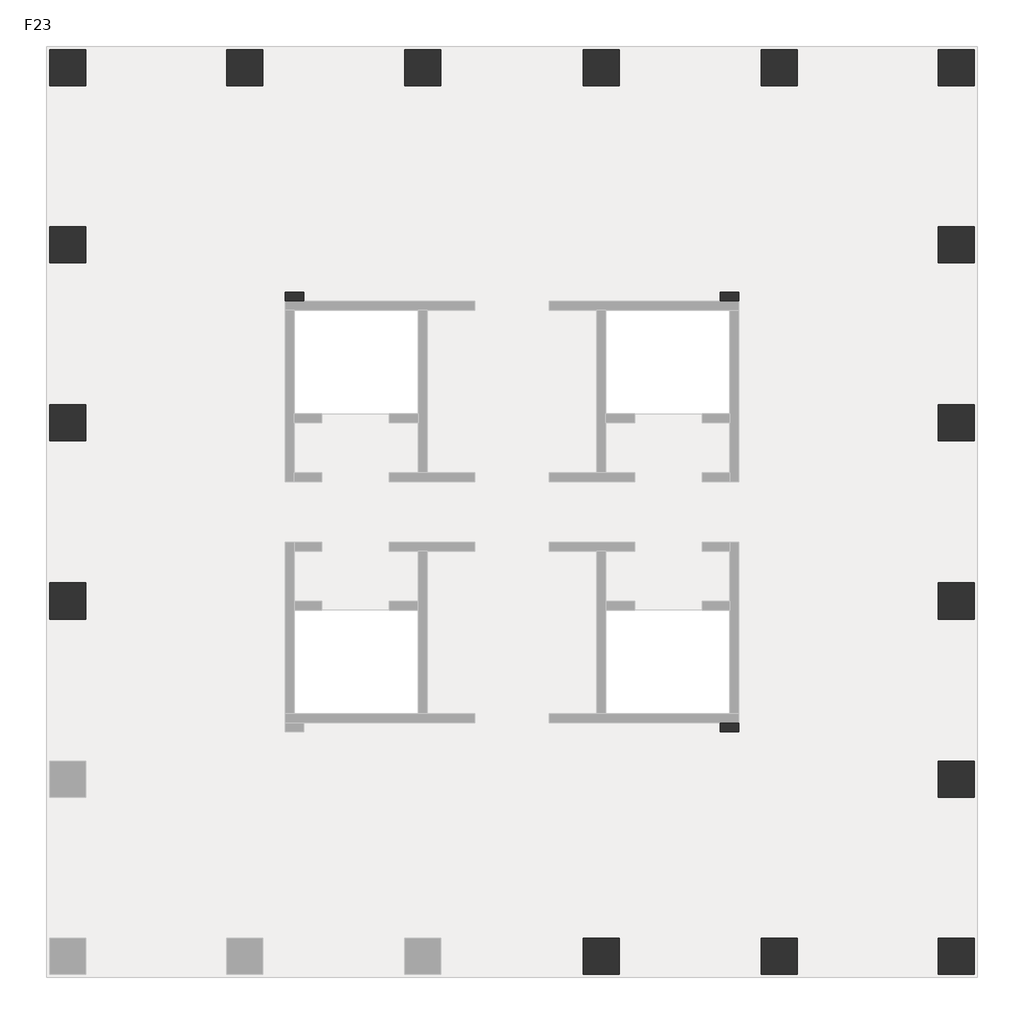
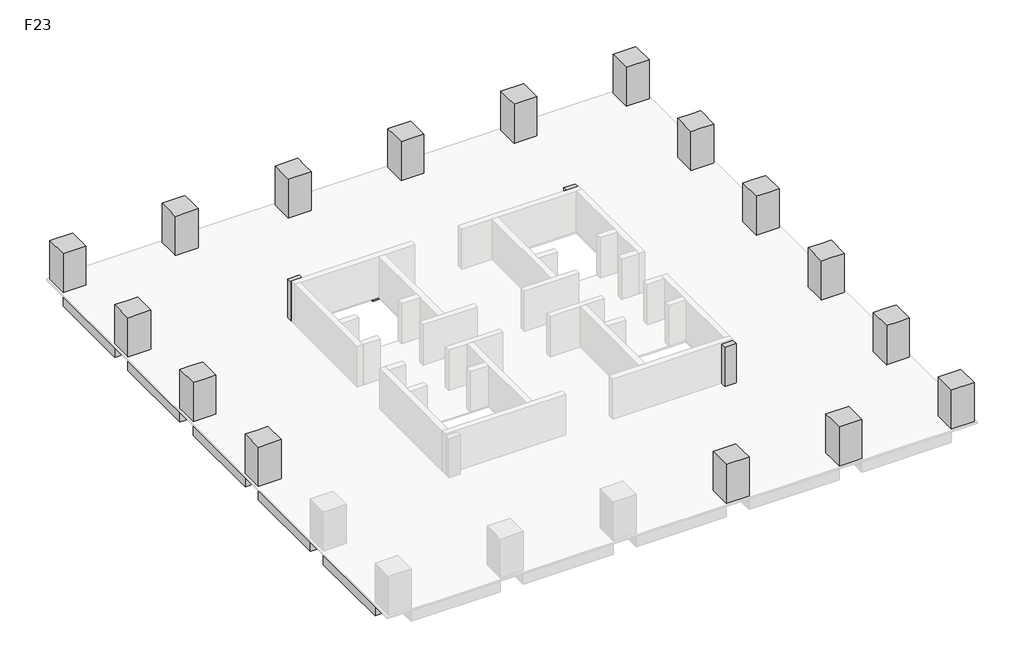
# One storey, part 2 of 2: 19 columns, 17 beams.
"""IFC4 building model written with IfcOpenShell, lengths in millimetres."""

from ifc_helpers import new_model, si_unit, frame, origin, place, context, project, spatial, polyline, outline, extrude, faceted_brep, element, save

model = new_model("IFC4")

# Units and contexts
model_context = context("Model", 3, world=origin())
ifc_project = project(units=[si_unit("LENGTHUNIT", "METRE", prefix="MILLI")], contexts=[model_context])

# Site, building, storey
site = spatial("IfcSite", under=ifc_project)
building = spatial("IfcBuilding", under=site)
storey = spatial("IfcBuildingStorey", under=building, Name="F23", Elevation=87000.0)

# Beams
placement = place(None, origin())
element("IfcBeam", 1, ObjectType="混凝土 - 矩形梁 : KL(5)-800x1000", at=placement, inside=storey, context=model_context, shape_type="SweptSolid", body=[
    extrude(outline(polyline([(25327.3257831, 27051.0498658), (25327.3257831, 26251.0498658), (19077.3257831, 26251.0498658), (19077.3257831, 27051.0498658), (25327.3257831, 27051.0498658)])), frame((0.0, 0.0, 86000.0), z_axis=(0.0, 0.0, 1.0), x_axis=(1.0, 0.0, 0.0)), (0.0, 0.0, 1.0), 900.0),
    extrude(outline(polyline([(-12472.6742169, 26251.0498658), (-12472.6742169, 27051.0498658), (-6222.6742169, 27051.0498658), (-6222.6742169, 26251.0498658), (-12472.6742169, 26251.0498658)])), frame((0.0, 0.0, 86000.0), z_axis=(0.0, 0.0, 1.0), x_axis=(1.0, 0.0, 0.0)), (0.0, 0.0, 1.0), 900.0),
    extrude(outline(polyline([(-4622.6742169, 26251.0498658), (-4622.6742169, 27051.0498658), (1677.3257831, 27051.0498658), (1677.3257831, 26251.0498658), (-4622.6742169, 26251.0498658)])), frame((0.0, 0.0, 86000.0), z_axis=(0.0, 0.0, 1.0), x_axis=(1.0, 0.0, 0.0)), (0.0, 0.0, 1.0), 900.0),
    extrude(outline(polyline([(3277.3257831, 26251.0498658), (3277.3257831, 27051.0498658), (9577.3257831, 27051.0498658), (9577.3257831, 26251.0498658), (3277.3257831, 26251.0498658)])), frame((0.0, 0.0, 86000.0), z_axis=(0.0, 0.0, 1.0), x_axis=(1.0, 0.0, 0.0)), (0.0, 0.0, 1.0), 900.0),
    extrude(outline(polyline([(11177.3257831, 26251.0498658), (11177.3257831, 27051.0498658), (17477.3257831, 27051.0498658), (17477.3257831, 26251.0498658), (11177.3257831, 26251.0498658)])), frame((0.0, 0.0, 86000.0), z_axis=(0.0, 0.0, 1.0), x_axis=(1.0, 0.0, 0.0)), (0.0, 0.0, 1.0), 900.0),
])
element("IfcBeam", 2, ObjectType="混凝土 - 矩形梁 : KL(5)-800x1000", at=placement, inside=storey, context=model_context, shape_type="SweptSolid", body=[
    extrude(outline(polyline([(26927.3257831, -12348.9501342), (26127.3257831, -12348.9501342), (26127.3257831, -6098.9501342), (26927.3257831, -6098.9501342), (26927.3257831, -12348.9501342)])), frame((0.0, 0.0, 86000.0), z_axis=(0.0, 0.0, 1.0), x_axis=(1.0, 0.0, 0.0)), (0.0, 0.0, 1.0), 900.0),
    extrude(outline(polyline([(26127.3257831, 25451.0498658), (26927.3257831, 25451.0498658), (26927.3257831, 19201.0498658), (26127.3257831, 19201.0498658), (26127.3257831, 25451.0498658)])), frame((0.0, 0.0, 86000.0), z_axis=(0.0, 0.0, 1.0), x_axis=(1.0, 0.0, 0.0)), (0.0, 0.0, 1.0), 900.0),
    extrude(outline(polyline([(26127.3257831, 17601.0498658), (26927.3257831, 17601.0498658), (26927.3257831, 11301.0498658), (26127.3257831, 11301.0498658), (26127.3257831, 17601.0498658)])), frame((0.0, 0.0, 86000.0), z_axis=(0.0, 0.0, 1.0), x_axis=(1.0, 0.0, 0.0)), (0.0, 0.0, 1.0), 900.0),
    extrude(outline(polyline([(26127.3257831, 9701.0498658), (26927.3257831, 9701.0498658), (26927.3257831, 3401.0498658), (26127.3257831, 3401.0498658), (26127.3257831, 9701.0498658)])), frame((0.0, 0.0, 86000.0), z_axis=(0.0, 0.0, 1.0), x_axis=(1.0, 0.0, 0.0)), (0.0, 0.0, 1.0), 900.0),
    extrude(outline(polyline([(26127.3257831, 1801.0498658), (26927.3257831, 1801.0498658), (26927.3257831, -4498.9501342), (26127.3257831, -4498.9501342), (26127.3257831, 1801.0498658)])), frame((0.0, 0.0, 86000.0), z_axis=(0.0, 0.0, 1.0), x_axis=(1.0, 0.0, 0.0)), (0.0, 0.0, 1.0), 900.0),
])
element("IfcBeam", 3, ObjectType="混凝土 - 矩形梁 : KL(5)-800x1000", at=placement, inside=storey, context=model_context, shape_type="SweptSolid", body=[
    extrude(outline(polyline([(-14072.6742169, 25451.0498658), (-13272.6742169, 25451.0498658), (-13272.6742169, 19201.0498658), (-14072.6742169, 19201.0498658), (-14072.6742169, 25451.0498658)])), frame((0.0, 0.0, 86000.0), z_axis=(0.0, 0.0, 1.0), x_axis=(1.0, 0.0, 0.0)), (0.0, 0.0, 1.0), 900.0),
    extrude(outline(polyline([(-13272.6742169, -12348.9501342), (-14072.6742169, -12348.9501342), (-14072.6742169, -6098.9501342), (-13272.6742169, -6098.9501342), (-13272.6742169, -12348.9501342)])), frame((0.0, 0.0, 86000.0), z_axis=(0.0, 0.0, 1.0), x_axis=(1.0, 0.0, 0.0)), (0.0, 0.0, 1.0), 900.0),
    extrude(outline(polyline([(-14072.6742169, 17601.0498658), (-13272.6742169, 17601.0498658), (-13272.6742169, 11301.0498658), (-14072.6742169, 11301.0498658), (-14072.6742169, 17601.0498658)])), frame((0.0, 0.0, 86000.0), z_axis=(0.0, 0.0, 1.0), x_axis=(1.0, 0.0, 0.0)), (0.0, 0.0, 1.0), 900.0),
    extrude(outline(polyline([(-14072.6742169, 9701.0498658), (-13272.6742169, 9701.0498658), (-13272.6742169, 3401.0498658), (-14072.6742169, 3401.0498658), (-14072.6742169, 9701.0498658)])), frame((0.0, 0.0, 86000.0), z_axis=(0.0, 0.0, 1.0), x_axis=(1.0, 0.0, 0.0)), (0.0, 0.0, 1.0), 900.0),
    extrude(outline(polyline([(-14072.6742169, 1801.0498658), (-13272.6742169, 1801.0498658), (-13272.6742169, -4498.9501342), (-14072.6742169, -4498.9501342), (-14072.6742169, 1801.0498658)])), frame((0.0, 0.0, 86000.0), z_axis=(0.0, 0.0, 1.0), x_axis=(1.0, 0.0, 0.0)), (0.0, 0.0, 1.0), 900.0),
])
element("IfcBeam", 4, ObjectType="混凝土 - 矩形梁 : L1-800x500", at=placement, inside=storey, context=model_context, shape_type="SweptSolid", body=[
    extrude(outline(polyline([(-12472.6742169, 2201.0498658), (-12472.6742169, 3001.0498658), (-3622.6742169, 3001.0498658), (-3622.6742169, 2201.0498658), (-12472.6742169, 2201.0498658)])), frame((0.0, 0.0, 86500.0), z_axis=(0.0, 0.0, 1.0), x_axis=(1.0, 0.0, 0.0)), (0.0, 0.0, 1.0), 400.0),
])
element("IfcBeam", 5, ObjectType="混凝土 - 矩形梁 : L1-800x500", at=placement, inside=storey, context=model_context, shape_type="SweptSolid", body=[
    extrude(outline(polyline([(-12472.6742169, 10101.0498658), (-12472.6742169, 10901.0498658), (-3622.6742169, 10901.0498658), (-3622.6742169, 10101.0498658), (-12472.6742169, 10101.0498658)])), frame((0.0, 0.0, 86500.0), z_axis=(0.0, 0.0, 1.0), x_axis=(1.0, 0.0, 0.0)), (0.0, 0.0, 1.0), 400.0),
])
element("IfcBeam", 6, ObjectType="混凝土 - 矩形梁 : L1-800x500", at=placement, inside=storey, context=model_context, shape_type="Brep", body=[
    faceted_brep([(-12472.6742169, 17789.85471, 86500.0), (-3622.6742169, 15588.3621727, 86500.0), (-3622.6742169, 15588.3621727, 86900.0), (-12472.6742169, 17789.85471, 86900.0), (-3173.6696907, 16301.0498658, 86500.0), (-3622.6742169, 16301.0498658, 86500.0), (-3622.6742169, 15901.0498658, 86500.0), (-12472.6742169, 18614.2350714, 86500.0), (-3746.9473979, 16443.6562607, 86500.0), (-12472.6742169, 18614.2350714, 86900.0), (-3746.9473979, 16443.6562607, 86900.0), (-3173.6696907, 16301.0498658, 86900.0), (-3622.6742169, 16301.0498658, 86900.0)], [[[0, 1, 2, 3]], [[4, 5, 6, 1, 0, 7, 8]], [[4, 8, 7, 9, 10, 11]], [[6, 5, 12, 2, 1]], [[5, 4, 11, 12]], [[7, 0, 3, 9]], [[3, 2, 12, 11, 10, 9]]]),
])
element("IfcBeam", 7, ObjectType="混凝土 - 矩形梁 : L1-800x500", at=placement, inside=storey, context=model_context, shape_type="SweptSolid", body=[
    extrude(outline(polyline([(-3173.6696907, 16301.0498658), (-3746.9473979, 16443.6562607), (-5661.5624638, 25451.0498658), (-4843.6893517, 25451.0498658), (-2898.7618154, 16301.0498658), (-3173.6696907, 16301.0498658)])), frame((0.0, 0.0, 86500.0), z_axis=(0.0, 0.0, 1.0), x_axis=(1.0, 0.0, 0.0)), (0.0, 0.0, 1.0), 400.0),
])
element("IfcBeam", 8, ObjectType="混凝土 - 矩形梁 : L1-800x500", at=placement, inside=storey, context=model_context, shape_type="SweptSolid", body=[
    extrude(outline(polyline([(2077.3257831, 25451.0498658), (2877.3257831, 25451.0498658), (2877.3257831, 15901.0498658), (2077.3257831, 15901.0498658), (2077.3257831, 25451.0498658)])), frame((0.0, 0.0, 86500.0), z_axis=(0.0, 0.0, 1.0), x_axis=(1.0, 0.0, 0.0)), (0.0, 0.0, 1.0), 400.0),
])
element("IfcBeam", 9, ObjectType="混凝土 - 矩形梁 : L1-800x500", at=placement, inside=storey, context=model_context, shape_type="SweptSolid", body=[
    extrude(outline(polyline([(9977.3257831, 25451.0498658), (10777.3257831, 25451.0498658), (10777.3257831, 15901.0498658), (9977.3257831, 15901.0498658), (9977.3257831, 25451.0498658)])), frame((0.0, 0.0, 86500.0), z_axis=(0.0, 0.0, 1.0), x_axis=(1.0, 0.0, 0.0)), (0.0, 0.0, 1.0), 400.0),
])
element("IfcBeam", 10, ObjectType="混凝土 - 矩形梁 : L1-800x500", at=placement, inside=storey, context=model_context, shape_type="SweptSolid", body=[
    extrude(outline(polyline([(2877.3257831, -12348.9501342), (2077.3257831, -12348.9501342), (2077.3257831, -2798.9501342), (2877.3257831, -2798.9501342), (2877.3257831, -12348.9501342)])), frame((0.0, 0.0, 86500.0), z_axis=(0.0, 0.0, 1.0), x_axis=(1.0, 0.0, 0.0)), (0.0, 0.0, 1.0), 400.0),
])
element("IfcBeam", 11, ObjectType="混凝土 - 矩形梁 : L1-800x500", at=placement, inside=storey, context=model_context, shape_type="SweptSolid", body=[
    extrude(outline(polyline([(10777.3257831, -12348.9501342), (9977.3257831, -12348.9501342), (9977.3257831, -2798.9501342), (10777.3257831, -2798.9501342), (10777.3257831, -12348.9501342)])), frame((0.0, 0.0, 86500.0), z_axis=(0.0, 0.0, 1.0), x_axis=(1.0, 0.0, 0.0)), (0.0, 0.0, 1.0), 400.0),
])
element("IfcBeam", 12, ObjectType="混凝土 - 矩形梁 : L1-800x500", at=placement, inside=storey, context=model_context, shape_type="Brep", body=[
    faceted_brep([(25327.3257831, -4687.7549784, 86500.0), (16477.3257831, -2486.2624411, 86500.0), (16477.3257831, -2486.2624411, 86900.0), (25327.3257831, -4687.7549784, 86900.0), (16028.3212569, -3198.9501342, 86500.0), (16477.3257831, -3198.9501342, 86500.0), (16477.3257831, -2798.9501342, 86500.0), (25327.3257831, -5512.1353397, 86500.0), (16601.5989641, -3341.556529, 86500.0), (25327.3257831, -5512.1353397, 86900.0), (16601.5989641, -3341.556529, 86900.0), (16028.3212569, -3198.9501342, 86900.0), (16477.3257831, -3198.9501342, 86900.0)], [[[0, 1, 2, 3]], [[4, 5, 6, 1, 0, 7, 8]], [[4, 8, 7, 9, 10, 11]], [[6, 5, 12, 2, 1]], [[5, 4, 11, 12]], [[7, 0, 3, 9]], [[3, 2, 12, 11, 10, 9]]]),
])
element("IfcBeam", 13, ObjectType="混凝土 - 矩形梁 : L1-800x500", at=placement, inside=storey, context=model_context, shape_type="SweptSolid", body=[
    extrude(outline(polyline([(16028.3212569, -3198.9501342), (16601.5989641, -3341.556529), (18516.21403, -12348.9501342), (17698.3409179, -12348.9501342), (15753.4133817, -3198.9501342), (16028.3212569, -3198.9501342)])), frame((0.0, 0.0, 86500.0), z_axis=(0.0, 0.0, 1.0), x_axis=(1.0, 0.0, 0.0)), (0.0, 0.0, 1.0), 400.0),
])
element("IfcBeam", 14, ObjectType="混凝土 - 矩形梁 : L1-800x500", at=placement, inside=storey, context=model_context, shape_type="SweptSolid", body=[
    extrude(outline(polyline([(25327.3257831, 3001.0498658), (25327.3257831, 2201.0498658), (16477.3257831, 2201.0498658), (16477.3257831, 3001.0498658), (25327.3257831, 3001.0498658)])), frame((0.0, 0.0, 86500.0), z_axis=(0.0, 0.0, 1.0), x_axis=(1.0, 0.0, 0.0)), (0.0, 0.0, 1.0), 400.0),
])
element("IfcBeam", 15, ObjectType="混凝土 - 矩形梁 : L1-800x500", at=placement, inside=storey, context=model_context, shape_type="SweptSolid", body=[
    extrude(outline(polyline([(25327.3257831, 10901.0498658), (25327.3257831, 10101.0498658), (16477.3257831, 10101.0498658), (16477.3257831, 10901.0498658), (25327.3257831, 10901.0498658)])), frame((0.0, 0.0, 86500.0), z_axis=(0.0, 0.0, 1.0), x_axis=(1.0, 0.0, 0.0)), (0.0, 0.0, 1.0), 400.0),
])
element("IfcBeam", 16, ObjectType="混凝土 - 矩形梁 : L1-800x500", at=placement, inside=storey, context=model_context, shape_type="Brep", body=[
    faceted_brep([(25327.3257831, 18610.6867312, 86500.0), (16590.8993897, 16393.3196262, 86500.0), (16227.3565337, 16301.0498658, 86500.0), (16227.3565337, 16301.0498658, 86900.0), (16590.8993897, 16393.3196262, 86900.0), (25327.3257831, 18610.6867312, 86900.0), (16477.3257831, 16301.0498658, 86500.0), (25327.3257831, 17785.3216299, 86500.0), (16477.3257831, 15539.1287365, 86500.0), (16477.3257831, 15901.0498658, 86500.0), (25327.3257831, 17785.3216299, 86900.0), (16477.3257831, 15539.1287365, 86900.0), (16477.3257831, 16301.0498658, 86900.0)], [[[0, 1, 2, 3, 4, 5]], [[6, 2, 1, 0, 7, 8, 9]], [[8, 7, 10, 11]], [[9, 8, 11, 12, 6]], [[2, 6, 12, 3]], [[7, 0, 5, 10]], [[5, 4, 3, 12, 11, 10]]]),
])
element("IfcBeam", 17, ObjectType="混凝土 - 矩形梁 : L1-800x500", at=placement, inside=storey, context=model_context, shape_type="SweptSolid", body=[
    extrude(outline(polyline([(16590.8993897, 16393.3196262), (16227.3565337, 16301.0498658), (15753.4133817, 16301.0498658), (17698.3409179, 25451.0498658), (18516.21403, 25451.0498658), (16590.8993897, 16393.3196262)])), frame((0.0, 0.0, 86500.0), z_axis=(0.0, 0.0, 1.0), x_axis=(1.0, 0.0, 0.0)), (0.0, 0.0, 1.0), 400.0),
])

# Columns
element("IfcColumn", 18, ObjectType="混凝土 - 矩形 - 柱 : Z1-1600x1600", at=placement, inside=storey, context=model_context, shape_type="SweptSolid", body=[
    extrude(outline(polyline([(-12472.6742169, 27051.0498658), (-12472.6742169, 25451.0498658), (-14072.6742169, 25451.0498658), (-14072.6742169, 27051.0498658), (-12472.6742169, 27051.0498658)])), frame((0.0, 0.0, 87000.0), z_axis=(0.0, 0.0, 1.0), x_axis=(1.0, 0.0, 0.0)), (0.0, 0.0, 1.0), 2900.0),
])
element("IfcColumn", 19, ObjectType="混凝土 - 矩形 - 柱 : Z1-1600x1600", at=placement, inside=storey, context=model_context, shape_type="Brep", body=[
    faceted_brep([(-4622.6742169, 27051.0498658, 87000.0), (-4622.6742169, 25451.0498658, 87000.0), (-6222.6742169, 25451.0498658, 87000.0), (-6222.6742169, 27051.0498658, 87000.0), (-4622.6742169, 27051.0498658, 89000.0), (-4622.6742169, 27051.0498658, 89900.0), (-4622.6742169, 26251.0498658, 89900.0), (-4622.6742169, 25451.0498658, 89900.0), (-6222.6742169, 25451.0498658, 89900.0), (-6222.6742169, 26251.0498658, 89900.0), (-6222.6742169, 27051.0498658, 89900.0), (-6222.6742169, 27051.0498658, 89000.0)], [[[0, 1, 2, 3]], [[1, 0, 4, 5, 6, 7]], [[2, 1, 7, 8]], [[3, 2, 8, 9, 10, 11]], [[0, 3, 11, 10, 5, 4]], [[7, 6, 5, 10, 9, 8]]]),
])
element("IfcColumn", 20, ObjectType="混凝土 - 矩形 - 柱 : Z1-1600x1600", at=placement, inside=storey, context=model_context, shape_type="Brep", body=[
    faceted_brep([(-12472.6742169, 19201.0498658, 87000.0), (-12472.6742169, 17601.0498658, 87000.0), (-14072.6742169, 17601.0498658, 87000.0), (-14072.6742169, 19201.0498658, 87000.0), (-12472.6742169, 19201.0498658, 89900.0), (-12472.6742169, 17601.0498658, 89900.0), (-13272.6742169, 17601.0498658, 89900.0), (-14072.6742169, 17601.0498658, 89900.0), (-14072.6742169, 17601.0498658, 89000.0), (-14072.6742169, 19201.0498658, 89900.0), (-14072.6742169, 19201.0498658, 89000.0), (-13272.6742169, 19201.0498658, 89900.0)], [[[0, 1, 2, 3]], [[1, 0, 4, 5]], [[2, 1, 5, 6, 7, 8]], [[3, 2, 8, 7, 9, 10]], [[0, 3, 10, 9, 11, 4]], [[5, 4, 11, 9, 7, 6]]]),
])
element("IfcColumn", 21, ObjectType="混凝土 - 矩形 - 柱 : Z1-1600x1600", at=placement, inside=storey, context=model_context, shape_type="Brep", body=[
    faceted_brep([(-12472.6742169, 11301.0498658, 87000.0), (-12472.6742169, 9701.0498658, 87000.0), (-14072.6742169, 9701.0498658, 87000.0), (-14072.6742169, 11301.0498658, 87000.0), (-12472.6742169, 11301.0498658, 89900.0), (-12472.6742169, 9701.0498658, 89900.0), (-13272.6742169, 9701.0498658, 89900.0), (-14072.6742169, 9701.0498658, 89900.0), (-14072.6742169, 9701.0498658, 89000.0), (-14072.6742169, 11301.0498658, 89900.0), (-14072.6742169, 11301.0498658, 89000.0), (-13272.6742169, 11301.0498658, 89900.0)], [[[0, 1, 2, 3]], [[1, 0, 4, 5]], [[2, 1, 5, 6, 7, 8]], [[3, 2, 8, 7, 9, 10]], [[0, 3, 10, 9, 11, 4]], [[5, 4, 11, 9, 7, 6]]]),
])
element("IfcColumn", 22, ObjectType="混凝土 - 矩形 - 柱 : Z1-1600x1600", at=placement, inside=storey, context=model_context, shape_type="Brep", body=[
    faceted_brep([(-12472.6742169, 3401.0498658, 87000.0), (-12472.6742169, 1801.0498658, 87000.0), (-14072.6742169, 1801.0498658, 87000.0), (-14072.6742169, 3401.0498658, 87000.0), (-12472.6742169, 3401.0498658, 89900.0), (-12472.6742169, 1801.0498658, 89900.0), (-13272.6742169, 1801.0498658, 89900.0), (-14072.6742169, 1801.0498658, 89900.0), (-14072.6742169, 1801.0498658, 89000.0), (-14072.6742169, 3401.0498658, 89900.0), (-14072.6742169, 3401.0498658, 89000.0), (-13272.6742169, 3401.0498658, 89900.0)], [[[0, 1, 2, 3]], [[1, 0, 4, 5]], [[2, 1, 5, 6, 7, 8]], [[3, 2, 8, 7, 9, 10]], [[0, 3, 10, 9, 11, 4]], [[5, 4, 11, 9, 7, 6]]]),
])
element("IfcColumn", 23, ObjectType="混凝土 - 矩形 - 柱 : Z1-1600x1600", at=placement, inside=storey, context=model_context, shape_type="SweptSolid", body=[
    extrude(outline(polyline([(25327.3257831, 27051.0498658), (26927.3257831, 27051.0498658), (26927.3257831, 25451.0498658), (25327.3257831, 25451.0498658), (25327.3257831, 27051.0498658)])), frame((0.0, 0.0, 87000.0), z_axis=(0.0, 0.0, 1.0), x_axis=(1.0, 0.0, 0.0)), (0.0, 0.0, 1.0), 2900.0),
])
element("IfcColumn", 24, ObjectType="混凝土 - 矩形 - 柱 : Z1-1600x1600", at=placement, inside=storey, context=model_context, shape_type="Brep", body=[
    faceted_brep([(25327.3257831, 19201.0498658, 87000.0), (26927.3257831, 19201.0498658, 87000.0), (26927.3257831, 17601.0498658, 87000.0), (25327.3257831, 17601.0498658, 87000.0), (25327.3257831, 17601.0498658, 89900.0), (25327.3257831, 19201.0498658, 89900.0), (26927.3257831, 17601.0498658, 89000.0), (26927.3257831, 17601.0498658, 89900.0), (26127.3257831, 17601.0498658, 89900.0), (26927.3257831, 19201.0498658, 89000.0), (26927.3257831, 19201.0498658, 89900.0), (26127.3257831, 19201.0498658, 89900.0)], [[[0, 1, 2, 3]], [[0, 3, 4, 5]], [[3, 2, 6, 7, 8, 4]], [[2, 1, 9, 10, 7, 6]], [[1, 0, 5, 11, 10, 9]], [[5, 4, 8, 7, 10, 11]]]),
])
element("IfcColumn", 25, ObjectType="混凝土 - 矩形 - 柱 : Z1-1600x1600", at=placement, inside=storey, context=model_context, shape_type="Brep", body=[
    faceted_brep([(25327.3257831, 11301.0498658, 87000.0), (26927.3257831, 11301.0498658, 87000.0), (26927.3257831, 9701.0498658, 87000.0), (25327.3257831, 9701.0498658, 87000.0), (25327.3257831, 9701.0498658, 89900.0), (25327.3257831, 11301.0498658, 89900.0), (26927.3257831, 9701.0498658, 89000.0), (26927.3257831, 9701.0498658, 89900.0), (26127.3257831, 9701.0498658, 89900.0), (26927.3257831, 11301.0498658, 89000.0), (26927.3257831, 11301.0498658, 89900.0), (26127.3257831, 11301.0498658, 89900.0)], [[[0, 1, 2, 3]], [[0, 3, 4, 5]], [[3, 2, 6, 7, 8, 4]], [[2, 1, 9, 10, 7, 6]], [[1, 0, 5, 11, 10, 9]], [[5, 4, 8, 7, 10, 11]]]),
])
element("IfcColumn", 26, ObjectType="混凝土 - 矩形 - 柱 : Z1-1600x1600", at=placement, inside=storey, context=model_context, shape_type="Brep", body=[
    faceted_brep([(25327.3257831, 3401.0498658, 87000.0), (26927.3257831, 3401.0498658, 87000.0), (26927.3257831, 1801.0498658, 87000.0), (25327.3257831, 1801.0498658, 87000.0), (25327.3257831, 1801.0498658, 89900.0), (25327.3257831, 3401.0498658, 89900.0), (26927.3257831, 1801.0498658, 89000.0), (26927.3257831, 1801.0498658, 89900.0), (26127.3257831, 1801.0498658, 89900.0), (26927.3257831, 3401.0498658, 89000.0), (26927.3257831, 3401.0498658, 89900.0), (26127.3257831, 3401.0498658, 89900.0)], [[[0, 1, 2, 3]], [[0, 3, 4, 5]], [[3, 2, 6, 7, 8, 4]], [[2, 1, 9, 10, 7, 6]], [[1, 0, 5, 11, 10, 9]], [[5, 4, 8, 7, 10, 11]]]),
])
element("IfcColumn", 27, ObjectType="混凝土 - 矩形 - 柱 : Z1-1600x1600", at=placement, inside=storey, context=model_context, shape_type="Brep", body=[
    faceted_brep([(25327.3257831, -4498.9501342, 87000.0), (26927.3257831, -4498.9501342, 87000.0), (26927.3257831, -6098.9501342, 87000.0), (25327.3257831, -6098.9501342, 87000.0), (25327.3257831, -6098.9501342, 89900.0), (25327.3257831, -4498.9501342, 89900.0), (26927.3257831, -6098.9501342, 89000.0), (26927.3257831, -6098.9501342, 89900.0), (26127.3257831, -6098.9501342, 89900.0), (26927.3257831, -4498.9501342, 89000.0), (26927.3257831, -4498.9501342, 89900.0), (26127.3257831, -4498.9501342, 89900.0)], [[[0, 1, 2, 3]], [[0, 3, 4, 5]], [[3, 2, 6, 7, 8, 4]], [[2, 1, 9, 10, 7, 6]], [[1, 0, 5, 11, 10, 9]], [[5, 4, 8, 7, 10, 11]]]),
])
element("IfcColumn", 28, ObjectType="混凝土 - 矩形 - 柱 : Z1-1600x1600", at=placement, inside=storey, context=model_context, shape_type="SweptSolid", body=[
    extrude(outline(polyline([(25327.3257831, -12348.9501342), (26927.3257831, -12348.9501342), (26927.3257831, -13948.9501342), (25327.3257831, -13948.9501342), (25327.3257831, -12348.9501342)])), frame((0.0, 0.0, 87000.0), z_axis=(0.0, 0.0, 1.0), x_axis=(1.0, 0.0, 0.0)), (0.0, 0.0, 1.0), 2900.0),
])
element("IfcColumn", 29, ObjectType="混凝土 - 矩形 - 柱 : Z1-1600x1600", at=placement, inside=storey, context=model_context, shape_type="Brep", body=[
    faceted_brep([(3277.3257831, 27051.0498658, 87000.0), (3277.3257831, 25451.0498658, 87000.0), (1677.3257831, 25451.0498658, 87000.0), (1677.3257831, 27051.0498658, 87000.0), (3277.3257831, 27051.0498658, 89000.0), (3277.3257831, 27051.0498658, 89900.0), (3277.3257831, 26251.0498658, 89900.0), (3277.3257831, 25451.0498658, 89900.0), (1677.3257831, 25451.0498658, 89900.0), (1677.3257831, 26251.0498658, 89900.0), (1677.3257831, 27051.0498658, 89900.0), (1677.3257831, 27051.0498658, 89000.0)], [[[0, 1, 2, 3]], [[1, 0, 4, 5, 6, 7]], [[2, 1, 7, 8]], [[3, 2, 8, 9, 10, 11]], [[0, 3, 11, 10, 5, 4]], [[7, 6, 5, 10, 9, 8]]]),
])
element("IfcColumn", 30, ObjectType="混凝土 - 矩形 - 柱 : Z1-1600x1600", at=placement, inside=storey, context=model_context, shape_type="Brep", body=[
    faceted_brep([(11177.3257831, 27051.0498658, 87000.0), (11177.3257831, 25451.0498658, 87000.0), (9577.3257831, 25451.0498658, 87000.0), (9577.3257831, 27051.0498658, 87000.0), (11177.3257831, 27051.0498658, 89000.0), (11177.3257831, 27051.0498658, 89900.0), (11177.3257831, 26251.0498658, 89900.0), (11177.3257831, 25451.0498658, 89900.0), (9577.3257831, 25451.0498658, 89900.0), (9577.3257831, 26251.0498658, 89900.0), (9577.3257831, 27051.0498658, 89900.0), (9577.3257831, 27051.0498658, 89000.0)], [[[0, 1, 2, 3]], [[1, 0, 4, 5, 6, 7]], [[2, 1, 7, 8]], [[3, 2, 8, 9, 10, 11]], [[0, 3, 11, 10, 5, 4]], [[7, 6, 5, 10, 9, 8]]]),
])
element("IfcColumn", 31, ObjectType="混凝土 - 矩形 - 柱 : Z1-1600x1600", at=placement, inside=storey, context=model_context, shape_type="Brep", body=[
    faceted_brep([(19077.3257831, 27051.0498658, 87000.0), (19077.3257831, 25451.0498658, 87000.0), (17477.3257831, 25451.0498658, 87000.0), (17477.3257831, 27051.0498658, 87000.0), (19077.3257831, 27051.0498658, 89000.0), (19077.3257831, 27051.0498658, 89900.0), (19077.3257831, 26251.0498658, 89900.0), (19077.3257831, 25451.0498658, 89900.0), (17477.3257831, 25451.0498658, 89900.0), (17477.3257831, 26251.0498658, 89900.0), (17477.3257831, 27051.0498658, 89900.0), (17477.3257831, 27051.0498658, 89000.0)], [[[0, 1, 2, 3]], [[1, 0, 4, 5, 6, 7]], [[2, 1, 7, 8]], [[3, 2, 8, 9, 10, 11]], [[0, 3, 11, 10, 5, 4]], [[7, 6, 5, 10, 9, 8]]]),
])
element("IfcColumn", 32, ObjectType="混凝土 - 矩形 - 柱 : Z1-1600x1600", at=placement, inside=storey, context=model_context, shape_type="Brep", body=[
    faceted_brep([(11177.3257831, -12348.9501342, 87000.0), (11177.3257831, -13948.9501342, 87000.0), (9577.3257831, -13948.9501342, 87000.0), (9577.3257831, -12348.9501342, 87000.0), (11177.3257831, -12348.9501342, 89900.0), (11177.3257831, -13148.9501342, 89900.0), (11177.3257831, -13948.9501342, 89900.0), (11177.3257831, -13948.9501342, 89000.0), (9577.3257831, -13948.9501342, 89900.0), (9577.3257831, -13948.9501342, 89000.0), (9577.3257831, -13148.9501342, 89900.0), (9577.3257831, -12348.9501342, 89900.0)], [[[0, 1, 2, 3]], [[1, 0, 4, 5, 6, 7]], [[2, 1, 7, 6, 8, 9]], [[3, 2, 9, 8, 10, 11]], [[0, 3, 11, 4]], [[6, 5, 4, 11, 10, 8]]]),
])
element("IfcColumn", 33, ObjectType="混凝土 - 矩形 - 柱 : Z1-1600x1600", at=placement, inside=storey, context=model_context, shape_type="Brep", body=[
    faceted_brep([(19077.3257831, -12348.9501342, 87000.0), (19077.3257831, -13948.9501342, 87000.0), (17477.3257831, -13948.9501342, 87000.0), (17477.3257831, -12348.9501342, 87000.0), (19077.3257831, -12348.9501342, 89900.0), (19077.3257831, -13148.9501342, 89900.0), (19077.3257831, -13948.9501342, 89900.0), (19077.3257831, -13948.9501342, 89000.0), (17477.3257831, -13948.9501342, 89900.0), (17477.3257831, -13948.9501342, 89000.0), (17477.3257831, -13148.9501342, 89900.0), (17477.3257831, -12348.9501342, 89900.0)], [[[0, 1, 2, 3]], [[1, 0, 4, 5, 6, 7]], [[2, 1, 7, 6, 8, 9]], [[3, 2, 9, 8, 10, 11]], [[0, 3, 11, 4]], [[6, 5, 4, 11, 10, 8]]]),
])
element("IfcColumn", 34, ObjectType="混凝土 - 矩形 - 柱 : Z2-800x800", at=placement, inside=storey, context=model_context, shape_type="SweptSolid", body=[
    extrude(outline(polyline([(-3622.6742169, 16301.0498658), (-2822.6742169, 16301.0498658), (-2822.6742169, 15901.0498658), (-3622.6742169, 15901.0498658), (-3622.6742169, 16301.0498658)])), frame((0.0, 0.0, 87000.0), z_axis=(0.0, 0.0, 1.0), x_axis=(1.0, 0.0, 0.0)), (0.0, 0.0, 1.0), 2900.0),
])
element("IfcColumn", 35, ObjectType="混凝土 - 矩形 - 柱 : Z2-800x800", at=placement, inside=storey, context=model_context, shape_type="SweptSolid", body=[
    extrude(outline(polyline([(16477.3257831, -3198.9501342), (15677.3257831, -3198.9501342), (15677.3257831, -2798.9501342), (16477.3257831, -2798.9501342), (16477.3257831, -3198.9501342)])), frame((0.0, 0.0, 87000.0), z_axis=(0.0, 0.0, 1.0), x_axis=(1.0, 0.0, 0.0)), (0.0, 0.0, 1.0), 2900.0),
])
element("IfcColumn", 36, ObjectType="混凝土 - 矩形 - 柱 : Z2-800x800", at=placement, inside=storey, context=model_context, shape_type="SweptSolid", body=[
    extrude(outline(polyline([(15677.3257831, 16301.0498658), (16477.3257831, 16301.0498658), (16477.3257831, 15901.0498658), (15677.3257831, 15901.0498658), (15677.3257831, 16301.0498658)])), frame((0.0, 0.0, 87000.0), z_axis=(0.0, 0.0, 1.0), x_axis=(1.0, 0.0, 0.0)), (0.0, 0.0, 1.0), 2900.0),
])

save(model, "model.ifc")
